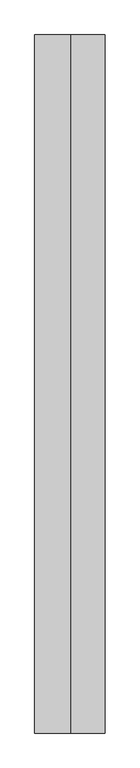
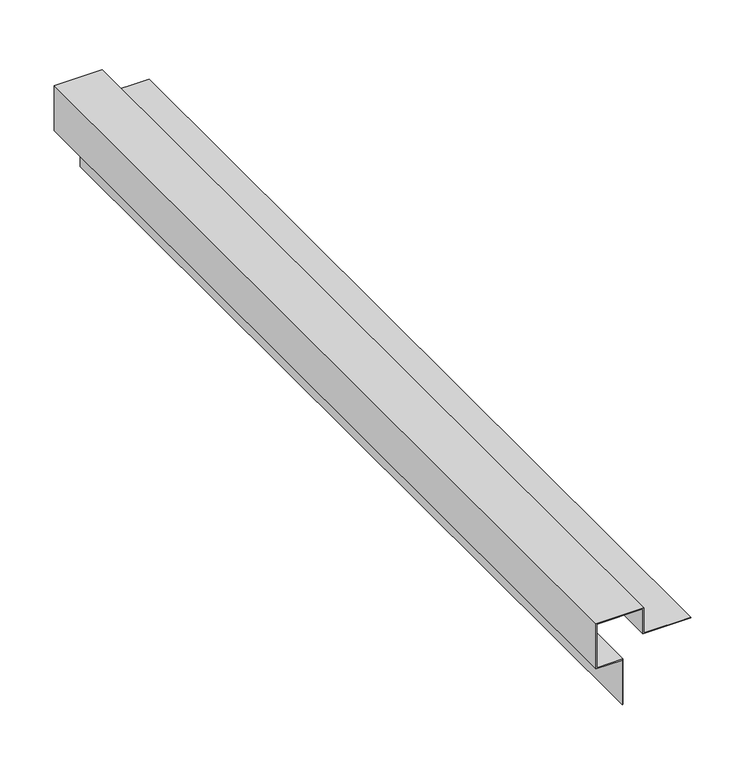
"""IFC4 building model written with IfcOpenShell, lengths in millimetres: proxy geometry, Alubel Alu-skin Corner Type 1 : Alubel Alu-skin Corner Type 1."""

from ifc_helpers import new_model, si_unit, frame, origin, place, context, project, spatial, polyline, outline, extrude, source, transform, mapped, element, save


def generic_models_7f1a014d(model_context):
    return source(origin(), model_context, "Body", "SweptSolid", [
        extrude(outline(polyline([(1.0, 50.0), (1.0, -1.0), (-50.0, -1.0), (-50.0, 27.0), (-100.0, 27.0), (-100.0, 28.0), (-49.0, 28.0), (-49.0, 0.0), (0.0, 0.0), (0.0, 49.0), (-28.0, 49.0), (-28.0, 100.0), (-27.0, 100.0), (-27.0, 50.0), (1.0, 50.0)])), frame((0.0, -500.0, 0.0), z_axis=(0.0, 1.0, 0.0), x_axis=(0.0, 0.0, 1.0)), (0.0, 0.0, 1.0), 1000.0),
    ])


if __name__ == "__main__":
    model = new_model("IFC4")
    model_context = context("Model", 3, world=origin())
    ifc_project = project(units=[si_unit("LENGTHUNIT", "METRE", prefix="MILLI")], contexts=[model_context])
    site = spatial("IfcSite", under=ifc_project)
    building = spatial("IfcBuilding", under=site)
    placement = place(None, origin())
    generic_models_shape = generic_models_7f1a014d(model_context)
    element("IfcBuildingElementProxy", 1, Name="Alubel Alu-skin Corner Type 1 : Alubel Alu-skin Corner Type 1", ObjectType="Alubel Alu-skin Corner Type 1 : Alubel Alu-skin Corner Type 1", at=placement, inside=building, context=model_context, shape_type="MappedRepresentation", body=[
        mapped(generic_models_shape, transform((0.0, 0.0, 0.0), x_axis=(1.0, 0.0, 0.0), y_axis=(0.0, 1.0, 0.0), z_axis=(0.0, 0.0, 1.0))),
    ])
    save(model, "model.ifc")
